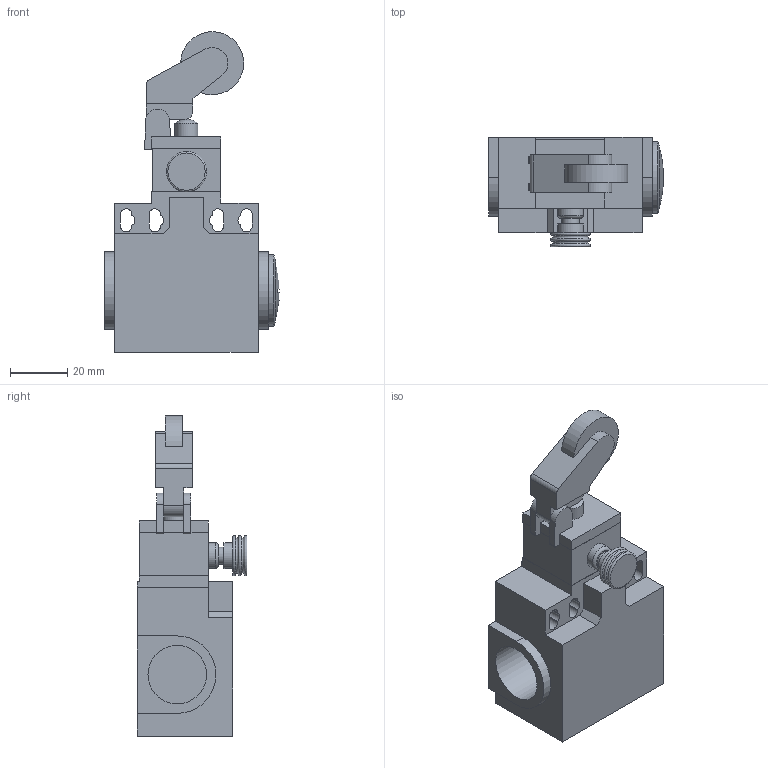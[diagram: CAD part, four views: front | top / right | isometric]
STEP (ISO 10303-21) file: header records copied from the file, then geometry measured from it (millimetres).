
FILE_DESCRIPTION((''),'2;1');
FILE_NAME('D:\Documenti_D\Corrispondenza\Comepi\Catalogo da fare\Modelli Nov 2011\DP\STEP\DP1-R38.iam.step','2011-11-17T12:04:39',(''),(''),'Autodesk Inventor 2010','Autodesk Inventor 2010','');
FILE_SCHEMA(('AUTOMOTIVE_DESIGN { 1 0 10303 214 1 1 1 1 }'));
Length unit declared in the file: millimetre
Products named in the file (9): DP1-R38; DP1; tappo; R38.iam; T38_1; T38_2; T38_3; R
Assembly tree (8 placements, depth 3):
  DP1-R38
    DP1
      DP1
      tappo
    R38.iam
      T38_1
      T38_2
      T38_3
      R
Bounding box: 60.92 x 38.3 x 111.8 mm (x, y, z)
Volume: 89329.3 mm3; surface area: 27307.1 mm2
Topology: 6 solids, 6 shells, 129 faces, 327 edges, 215 vertices
Faces by surface type: plane 89, cylinder 31, torus 6, sphere 2, cone 1
Full cylindrical faces by diameter (mm): 6 x1, 8 x2, 9 x2, 20.4 x1, 25 x1
Entity records: 4088 total; most frequent: DIRECTION 678, CARTESIAN_POINT 672, ORIENTED_EDGE 624, EDGE_CURVE 312, VECTOR 238, LINE 238, AXIS2_PLACEMENT_3D 220, VERTEX_POINT 214
